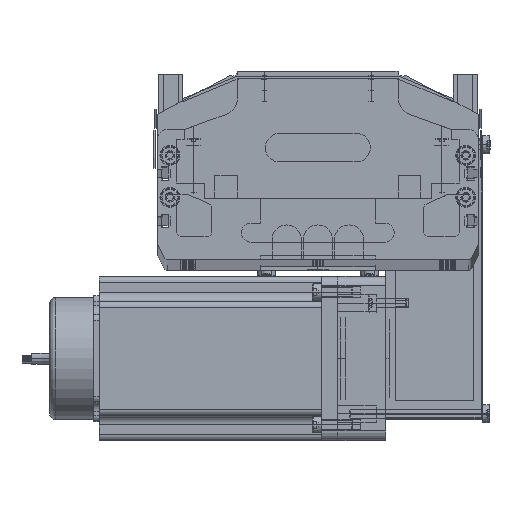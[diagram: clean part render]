
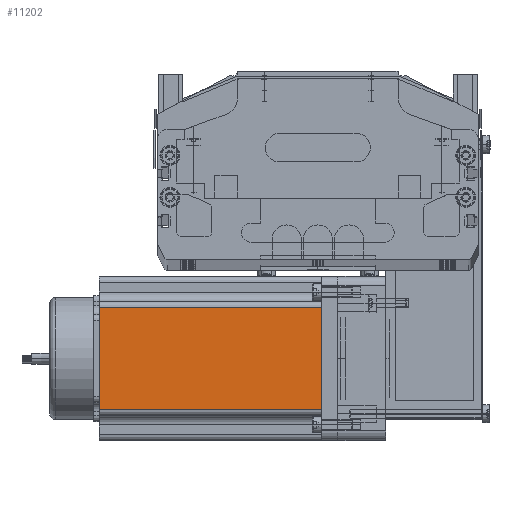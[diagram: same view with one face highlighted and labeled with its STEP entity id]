
A CAD part, top view. The second image highlights one B-rep face of the part: STEP entity #11202.
In plain terms, the highlighted planar face has unit normal (0, 0, 1) as drawn and (0, -1, 0) by its records, which use the part's own axes.
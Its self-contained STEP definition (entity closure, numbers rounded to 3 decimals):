
#11042 = EDGE_CURVE ( 'NONE', #11198, #11200, #52981, .T. ) ;
#11049 = ORIENTED_EDGE ( 'NONE', *, *, #11042, .T. ) ;
#11091 = VERTEX_POINT ( 'NONE', #53328 ) ;
#11121 = ORIENTED_EDGE ( 'NONE', *, *, #11168, .T. ) ;
#11162 = EDGE_CURVE ( 'NONE', #11164, #11091, #53135, .T. ) ;
#11164 = VERTEX_POINT ( 'NONE', #53428 ) ;
#11168 = EDGE_CURVE ( 'NONE', #11164, #11198, #53376, .T. ) ;
#11197 = EDGE_LOOP ( 'NONE', ( #11049, #11205, #11204, #11121 ) ) ;
#11198 = VERTEX_POINT ( 'NONE', #53263 ) ;
#11200 = VERTEX_POINT ( 'NONE', #53262 ) ;
#11202 = ADVANCED_FACE ( 'NONE', ( #53355 ), #53311, .F. ) ;
#11204 = ORIENTED_EDGE ( 'NONE', *, *, #11162, .F. ) ;
#11205 = ORIENTED_EDGE ( 'NONE', *, *, #11206, .T. ) ;
#11206 = EDGE_CURVE ( 'NONE', #11200, #11091, #53386, .T. ) ;
#52977 = DIRECTION ( 'NONE',  ( 1., 0., 0. ) ) ;
#52979 = VECTOR ( 'NONE', #52977, 1000. ) ;
#52980 = CARTESIAN_POINT ( 'NONE',  ( 0., 0., 0. ) ) ;
#52981 = LINE ( 'NONE', #52980, #52979 ) ;
#53134 = CARTESIAN_POINT ( 'NONE',  ( 0., 0., 116.5 ) ) ;
#53135 = LINE ( 'NONE', #53134, #53437 ) ;
#53218 = DIRECTION ( 'NONE',  ( 0., 0., 1. ) ) ;
#53236 = DIRECTION ( 'NONE',  ( 0., 0., -1. ) ) ;
#53237 = VECTOR ( 'NONE', #53236, 1000. ) ;
#53262 = CARTESIAN_POINT ( 'NONE',  ( 69.74, 0., 0. ) ) ;
#53263 = CARTESIAN_POINT ( 'NONE',  ( 16.16, 0., 0. ) ) ;
#53311 = PLANE ( 'NONE',  #53349 ) ;
#53328 = CARTESIAN_POINT ( 'NONE',  ( 69.74, 0., 116.5 ) ) ;
#53349 = AXIS2_PLACEMENT_3D ( 'NONE', #53354, #53392, #53389 ) ;
#53354 = CARTESIAN_POINT ( 'NONE',  ( 0., 0., 116.5 ) ) ;
#53355 = FACE_OUTER_BOUND ( 'NONE', #11197, .T. ) ;
#53375 = CARTESIAN_POINT ( 'NONE',  ( 16.16, 0., 116.5 ) ) ;
#53376 = LINE ( 'NONE', #53375, #53237 ) ;
#53383 = VECTOR ( 'NONE', #53218, 1000. ) ;
#53384 = CARTESIAN_POINT ( 'NONE',  ( 69.74, 0., 116.5 ) ) ;
#53386 = LINE ( 'NONE', #53384, #53383 ) ;
#53389 = DIRECTION ( 'NONE',  ( 0., 0., 1. ) ) ;
#53392 = DIRECTION ( 'NONE',  ( 0., 1., 0. ) ) ;
#53428 = CARTESIAN_POINT ( 'NONE',  ( 16.16, 0., 116.5 ) ) ;
#53436 = DIRECTION ( 'NONE',  ( 1., 0., 0. ) ) ;
#53437 = VECTOR ( 'NONE', #53436, 1000. ) ;
